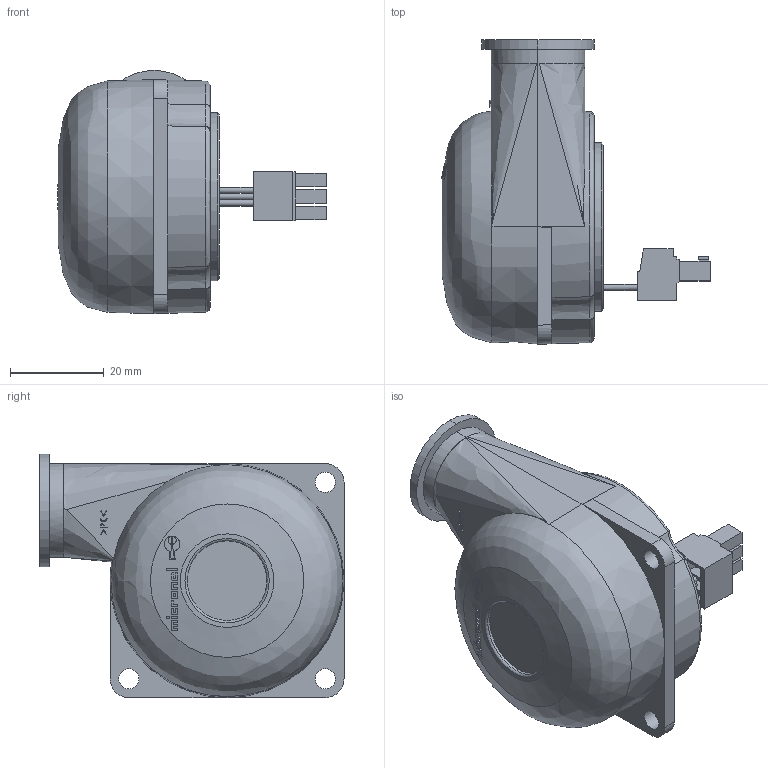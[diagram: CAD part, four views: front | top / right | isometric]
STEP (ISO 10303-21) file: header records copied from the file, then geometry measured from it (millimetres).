
FILE_DESCRIPTION(/* description */ (''),/* implementation_level */ '2;1');
FILE_NAME(/* name */ 'U51DL_024KK_5.stp',/* time_stamp */ '2014-04-17T08:08:50+02:00',/* author */ (''),/* organization */ (''),/* preprocessor_version */ 'ST-DEVELOPER v11',/* originating_system */ 'SIEMENS PLM Software NX 7.5',/* authorisation */ '');
FILE_SCHEMA (('AUTOMOTIVE_DESIGN { 1 0 10303 214 1 1 1 1 }'));
Length unit declared in the file: millimetre
Products named in the file (1): model1
Bounding box: 57.43 x 65 x 51.99 mm (x, y, z)
Volume: 70220.4 mm3; surface area: 12099.6 mm2
Topology: 1 solids, 1 shells, 334 faces, 836 edges, 541 vertices
Faces by surface type: plane 258, bspline 27, cylinder 25, cone 24
Full cylindrical faces by diameter (mm): 1.32 x3, 2.15 x3, 4.3 x3, 17 x1, 36 x1
Entity records: 10302 total; most frequent: CARTESIAN_POINT 2966, ORIENTED_EDGE 1626, DIRECTION 1320, EDGE_CURVE 813, VERTEX_POINT 535, LINE 500, VECTOR 500, AXIS2_PLACEMENT_3D 410
